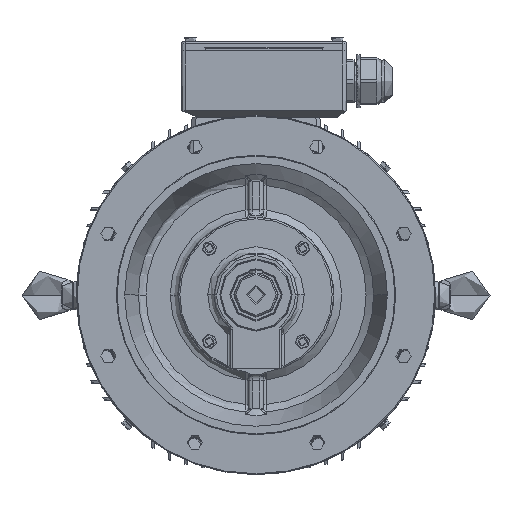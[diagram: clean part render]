
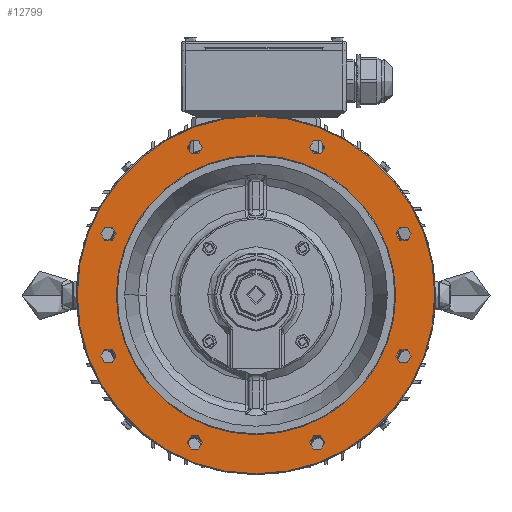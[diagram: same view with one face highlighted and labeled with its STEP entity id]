
A CAD part, top view. The second image highlights one B-rep face of the part: STEP entity #12799.
In plain terms, the highlighted planar face has unit normal (0, 0, 1).
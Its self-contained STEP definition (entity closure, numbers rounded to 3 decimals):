
#5295=FACE_BOUND('',#32244,.T.);
#5296=FACE_BOUND('',#32245,.T.);
#5297=FACE_BOUND('',#32246,.T.);
#5298=FACE_BOUND('',#32247,.T.);
#5299=FACE_BOUND('',#32248,.T.);
#5300=FACE_BOUND('',#32249,.T.);
#5301=FACE_BOUND('',#32250,.T.);
#5302=FACE_BOUND('',#32251,.T.);
#5303=FACE_BOUND('',#32252,.T.);
#5304=FACE_BOUND('',#32253,.T.);
#7518=PLANE('',#155461);
#12799=ADVANCED_FACE('',(#5295,#5296,#5297,#5298,#5299,#5300,#5301,#5302,
#5303,#5304),#7518,.F.);
#32244=EDGE_LOOP('',(#76565,#76566));
#32245=EDGE_LOOP('',(#76567,#76568));
#32246=EDGE_LOOP('',(#76569,#76570));
#32247=EDGE_LOOP('',(#76571,#76572));
#32248=EDGE_LOOP('',(#76573,#76574));
#32249=EDGE_LOOP('',(#76575,#76576));
#32250=EDGE_LOOP('',(#76577,#76578));
#32251=EDGE_LOOP('',(#76579,#76580));
#32252=EDGE_LOOP('',(#76581,#76582));
#32253=EDGE_LOOP('',(#76583,#76584));
#76565=ORIENTED_EDGE('',*,*,#128312,.T.);
#76566=ORIENTED_EDGE('',*,*,#127729,.T.);
#76567=ORIENTED_EDGE('',*,*,#128313,.F.);
#76568=ORIENTED_EDGE('',*,*,#127801,.F.);
#76569=ORIENTED_EDGE('',*,*,#128314,.F.);
#76570=ORIENTED_EDGE('',*,*,#127805,.F.);
#76571=ORIENTED_EDGE('',*,*,#128315,.F.);
#76572=ORIENTED_EDGE('',*,*,#127808,.F.);
#76573=ORIENTED_EDGE('',*,*,#128316,.F.);
#76574=ORIENTED_EDGE('',*,*,#127812,.F.);
#76575=ORIENTED_EDGE('',*,*,#128317,.F.);
#76576=ORIENTED_EDGE('',*,*,#127816,.F.);
#76577=ORIENTED_EDGE('',*,*,#128318,.F.);
#76578=ORIENTED_EDGE('',*,*,#127820,.F.);
#76579=ORIENTED_EDGE('',*,*,#128319,.F.);
#76580=ORIENTED_EDGE('',*,*,#127824,.F.);
#76581=ORIENTED_EDGE('',*,*,#128320,.F.);
#76582=ORIENTED_EDGE('',*,*,#127828,.F.);
#76583=ORIENTED_EDGE('',*,*,#127858,.F.);
#76584=ORIENTED_EDGE('',*,*,#128311,.F.);
#110812=VERTEX_POINT('',#253536);
#110813=VERTEX_POINT('',#253537);
#110883=VERTEX_POINT('',#253904);
#110884=VERTEX_POINT('',#253906);
#110887=VERTEX_POINT('',#253913);
#110888=VERTEX_POINT('',#253915);
#110889=VERTEX_POINT('',#253919);
#110890=VERTEX_POINT('',#253921);
#110893=VERTEX_POINT('',#253928);
#110894=VERTEX_POINT('',#253930);
#110897=VERTEX_POINT('',#253937);
#110898=VERTEX_POINT('',#253939);
#110901=VERTEX_POINT('',#253946);
#110902=VERTEX_POINT('',#253948);
#110905=VERTEX_POINT('',#253955);
#110906=VERTEX_POINT('',#253957);
#110909=VERTEX_POINT('',#253964);
#110910=VERTEX_POINT('',#253966);
#110933=VERTEX_POINT('',#254095);
#110934=VERTEX_POINT('',#254096);
#127729=EDGE_CURVE('',#110812,#110813,#145231,.T.);
#127801=EDGE_CURVE('',#110883,#110884,#145250,.T.);
#127805=EDGE_CURVE('',#110887,#110888,#145252,.T.);
#127808=EDGE_CURVE('',#110889,#110890,#145253,.T.);
#127812=EDGE_CURVE('',#110893,#110894,#145255,.T.);
#127816=EDGE_CURVE('',#110897,#110898,#145257,.T.);
#127820=EDGE_CURVE('',#110901,#110902,#145259,.T.);
#127824=EDGE_CURVE('',#110905,#110906,#145261,.T.);
#127828=EDGE_CURVE('',#110909,#110910,#145263,.T.);
#127858=EDGE_CURVE('',#110933,#110934,#145272,.T.);
#128311=EDGE_CURVE('',#110934,#110933,#145429,.T.);
#128312=EDGE_CURVE('',#110813,#110812,#145430,.T.);
#128313=EDGE_CURVE('',#110884,#110883,#145431,.T.);
#128314=EDGE_CURVE('',#110888,#110887,#145432,.T.);
#128315=EDGE_CURVE('',#110890,#110889,#145433,.T.);
#128316=EDGE_CURVE('',#110894,#110893,#145434,.T.);
#128317=EDGE_CURVE('',#110898,#110897,#145435,.T.);
#128318=EDGE_CURVE('',#110902,#110901,#145436,.T.);
#128319=EDGE_CURVE('',#110906,#110905,#145437,.T.);
#128320=EDGE_CURVE('',#110910,#110909,#145438,.T.);
#145231=CIRCLE('',#155118,224.);
#145250=CIRCLE('',#155154,9.5);
#145252=CIRCLE('',#155157,9.5);
#145253=CIRCLE('',#155159,9.5);
#145255=CIRCLE('',#155162,9.5);
#145257=CIRCLE('',#155165,9.5);
#145259=CIRCLE('',#155168,9.5);
#145261=CIRCLE('',#155171,9.5);
#145263=CIRCLE('',#155174,9.5);
#145272=CIRCLE('',#155189,175.);
#145429=CIRCLE('',#155450,175.);
#145430=CIRCLE('',#155452,224.);
#145431=CIRCLE('',#155453,9.5);
#145432=CIRCLE('',#155454,9.5);
#145433=CIRCLE('',#155455,9.5);
#145434=CIRCLE('',#155456,9.5);
#145435=CIRCLE('',#155457,9.5);
#145436=CIRCLE('',#155458,9.5);
#145437=CIRCLE('',#155459,9.5);
#145438=CIRCLE('',#155460,9.5);
#155118=AXIS2_PLACEMENT_3D('',#253535,#177318,#177319);
#155154=AXIS2_PLACEMENT_3D('',#253905,#177421,#177422);
#155157=AXIS2_PLACEMENT_3D('',#253914,#177429,#177430);
#155159=AXIS2_PLACEMENT_3D('',#253920,#177435,#177436);
#155162=AXIS2_PLACEMENT_3D('',#253929,#177443,#177444);
#155165=AXIS2_PLACEMENT_3D('',#253938,#177451,#177452);
#155168=AXIS2_PLACEMENT_3D('',#253947,#177459,#177460);
#155171=AXIS2_PLACEMENT_3D('',#253956,#177467,#177468);
#155174=AXIS2_PLACEMENT_3D('',#253965,#177475,#177476);
#155189=AXIS2_PLACEMENT_3D('',#254094,#177516,#177517);
#155450=AXIS2_PLACEMENT_3D('',#256811,#178119,#178120);
#155452=AXIS2_PLACEMENT_3D('',#256813,#178123,#178124);
#155453=AXIS2_PLACEMENT_3D('',#256814,#178125,#178126);
#155454=AXIS2_PLACEMENT_3D('',#256815,#178127,#178128);
#155455=AXIS2_PLACEMENT_3D('',#256816,#178129,#178130);
#155456=AXIS2_PLACEMENT_3D('',#256817,#178131,#178132);
#155457=AXIS2_PLACEMENT_3D('',#256818,#178133,#178134);
#155458=AXIS2_PLACEMENT_3D('',#256819,#178135,#178136);
#155459=AXIS2_PLACEMENT_3D('',#256820,#178137,#178138);
#155460=AXIS2_PLACEMENT_3D('',#256821,#178139,#178140);
#155461=AXIS2_PLACEMENT_3D('',#256822,#178141,#178142);
#177318=DIRECTION('',(0.,0.,1.));
#177319=DIRECTION('',(1.,0.,0.));
#177421=DIRECTION('',(0.,0.,1.));
#177422=DIRECTION('',(-0.707,0.707,0.));
#177429=DIRECTION('',(0.,0.,1.));
#177430=DIRECTION('',(0.,1.,0.));
#177435=DIRECTION('',(0.,0.,1.));
#177436=DIRECTION('',(0.707,0.707,0.));
#177443=DIRECTION('',(0.,0.,1.));
#177444=DIRECTION('',(1.,0.,0.));
#177451=DIRECTION('',(0.,0.,1.));
#177452=DIRECTION('',(0.707,-0.707,0.));
#177459=DIRECTION('',(0.,0.,1.));
#177460=DIRECTION('',(0.,-1.,0.));
#177467=DIRECTION('',(0.,0.,1.));
#177468=DIRECTION('',(-0.707,-0.707,0.));
#177475=DIRECTION('',(0.,0.,1.));
#177476=DIRECTION('',(-1.,0.,0.));
#177516=DIRECTION('',(0.,0.,1.));
#177517=DIRECTION('',(-1.,0.,0.));
#178119=DIRECTION('',(0.,0.,1.));
#178120=DIRECTION('',(-1.,0.,0.));
#178123=DIRECTION('',(0.,0.,1.));
#178124=DIRECTION('',(1.,0.,0.));
#178125=DIRECTION('',(0.,0.,1.));
#178126=DIRECTION('',(-0.707,0.707,0.));
#178127=DIRECTION('',(0.,0.,1.));
#178128=DIRECTION('',(0.,1.,0.));
#178129=DIRECTION('',(0.,0.,1.));
#178130=DIRECTION('',(0.707,0.707,0.));
#178131=DIRECTION('',(0.,0.,1.));
#178132=DIRECTION('',(1.,0.,0.));
#178133=DIRECTION('',(0.,0.,1.));
#178134=DIRECTION('',(0.707,-0.707,0.));
#178135=DIRECTION('',(0.,0.,1.));
#178136=DIRECTION('',(0.,-1.,0.));
#178137=DIRECTION('',(0.,0.,1.));
#178138=DIRECTION('',(-0.707,-0.707,0.));
#178139=DIRECTION('',(0.,0.,1.));
#178140=DIRECTION('',(-1.,0.,0.));
#178141=DIRECTION('',(0.,0.,-1.));
#178142=DIRECTION('',(-1.,0.,0.));
#253535=CARTESIAN_POINT('',(255.034,275.49,570.393));
#253536=CARTESIAN_POINT('',(31.034,275.49,570.393));
#253537=CARTESIAN_POINT('',(479.034,275.49,570.393));
#253904=CARTESIAN_POINT('',(187.874,90.592,570.393));
#253905=CARTESIAN_POINT('',(178.374,90.592,570.393));
#253906=CARTESIAN_POINT('',(168.874,90.592,570.393));
#253913=CARTESIAN_POINT('',(79.584,198.954,570.393));
#253914=CARTESIAN_POINT('',(70.084,198.954,570.393));
#253915=CARTESIAN_POINT('',(60.584,198.954,570.393));
#253919=CARTESIAN_POINT('',(79.635,352.15,570.393));
#253920=CARTESIAN_POINT('',(70.135,352.15,570.393));
#253921=CARTESIAN_POINT('',(60.635,352.15,570.393));
#253928=CARTESIAN_POINT('',(187.997,460.44,570.393));
#253929=CARTESIAN_POINT('',(178.497,460.44,570.393));
#253930=CARTESIAN_POINT('',(168.997,460.44,570.393));
#253937=CARTESIAN_POINT('',(341.193,460.389,570.393));
#253938=CARTESIAN_POINT('',(331.693,460.389,570.393));
#253939=CARTESIAN_POINT('',(322.193,460.389,570.393));
#253946=CARTESIAN_POINT('',(449.483,352.027,570.393));
#253947=CARTESIAN_POINT('',(439.983,352.027,570.393));
#253948=CARTESIAN_POINT('',(430.483,352.027,570.393));
#253955=CARTESIAN_POINT('',(449.432,198.831,570.393));
#253956=CARTESIAN_POINT('',(439.932,198.831,570.393));
#253957=CARTESIAN_POINT('',(430.432,198.831,570.393));
#253964=CARTESIAN_POINT('',(341.07,90.541,570.393));
#253965=CARTESIAN_POINT('',(331.57,90.541,570.393));
#253966=CARTESIAN_POINT('',(322.07,90.541,570.393));
#254094=CARTESIAN_POINT('',(255.034,275.49,570.393));
#254095=CARTESIAN_POINT('',(80.034,275.49,570.393));
#254096=CARTESIAN_POINT('',(430.034,275.49,570.393));
#256811=CARTESIAN_POINT('',(255.034,275.49,570.393));
#256813=CARTESIAN_POINT('',(255.034,275.49,570.393));
#256814=CARTESIAN_POINT('',(178.374,90.592,570.393));
#256815=CARTESIAN_POINT('',(70.084,198.954,570.393));
#256816=CARTESIAN_POINT('',(70.135,352.15,570.393));
#256817=CARTESIAN_POINT('',(178.497,460.44,570.393));
#256818=CARTESIAN_POINT('',(331.693,460.389,570.393));
#256819=CARTESIAN_POINT('',(439.983,352.027,570.393));
#256820=CARTESIAN_POINT('',(439.932,198.831,570.393));
#256821=CARTESIAN_POINT('',(331.57,90.541,570.393));
#256822=CARTESIAN_POINT('',(255.034,100.49,570.393));
